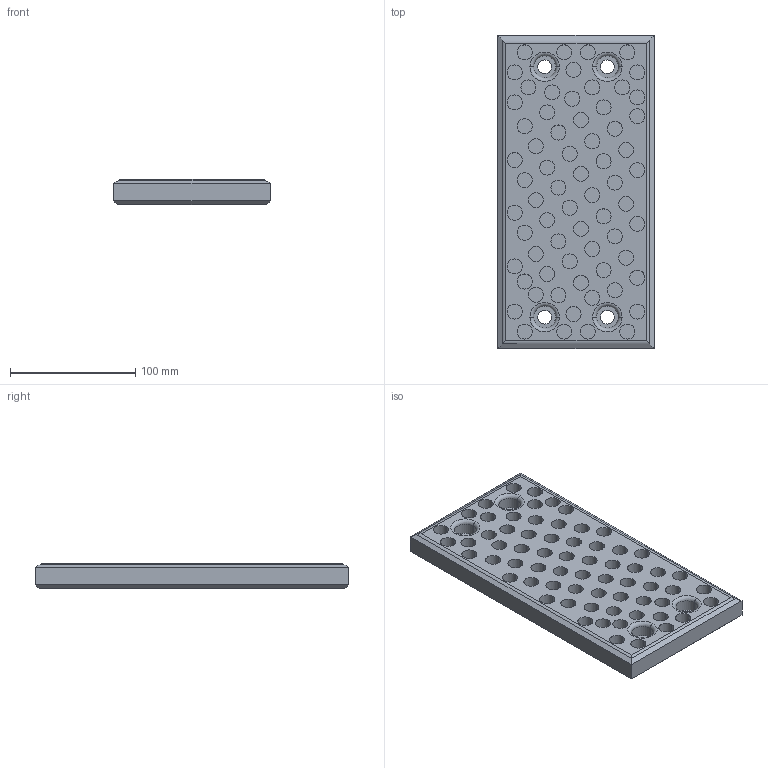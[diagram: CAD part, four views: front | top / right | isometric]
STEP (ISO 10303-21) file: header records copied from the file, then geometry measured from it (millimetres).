
FILE_DESCRIPTION (( 'STEP AP214' ), '1' );
FILE_NAME ('SW224-02-125x250.STEP', '2020-10-19T08:04:39', ( 'August' ), ( '' ), 'SwSTEP 2.0', 'SolidWorks 2018', '' );
FILE_SCHEMA (( 'AUTOMOTIVE_DESIGN' ));
Length unit declared in the file: millimetre
Products named in the file (1): SW224-02-125x250
Bounding box: 125 x 250 x 20 mm (x, y, z)
Volume: 531552.8 mm3; surface area: 100332.3 mm2
Topology: 1 solids, 1 shells, 244 faces, 496 edges, 324 vertices
Faces by surface type: cylinder 152, plane 84, torus 8
Entity records: 7147 total; most frequent: DIRECTION 1286, CARTESIAN_POINT 1148, ORIENTED_EDGE 992, AXIS2_PLACEMENT_3D 557, EDGE_CURVE 496, VERTEX_POINT 324, EDGE_LOOP 322, CIRCLE 312
